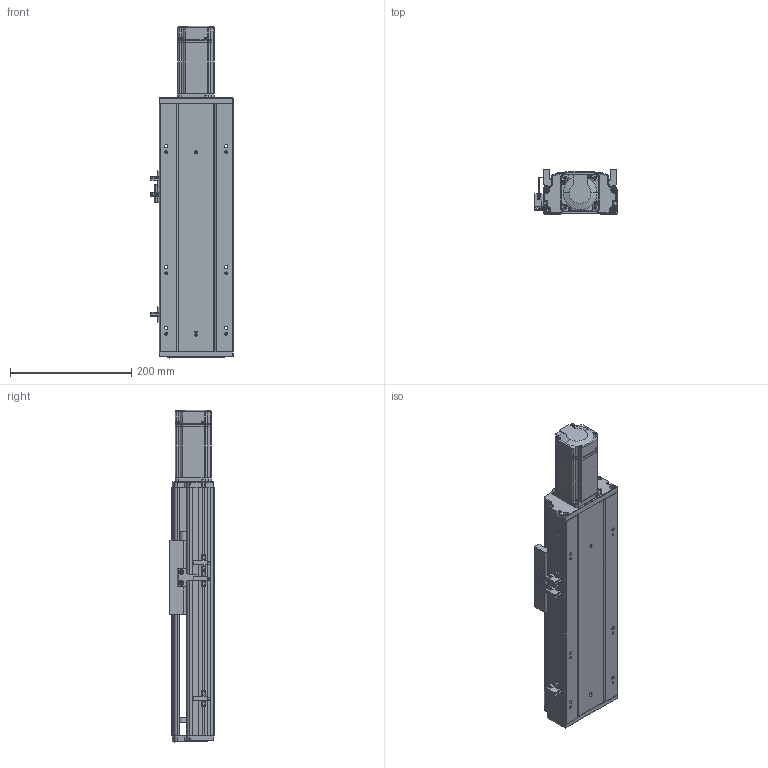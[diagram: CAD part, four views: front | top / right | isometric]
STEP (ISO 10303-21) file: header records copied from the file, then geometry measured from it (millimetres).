
FILE_DESCRIPTION (( 'STEP AP203' ), '1' );
FILE_NAME ('RY120Q-L1610-500-MK.SLDASM_0150.step', '2021-05-19T01:44:16', ( '盈信电脑' ), ( '东莞市道滘镇水果街19号' ), 'SwSTEP 2.0', 'SolidWorks 2016', '' );
FILE_SCHEMA (( 'CONFIG_CONTROL_DESIGN' ));
Length unit declared in the file: millimetre
Products named in the file (14): RY120-500-MK倰第菁釱_0150; RY120-500-MK倰第奻裔啣_0150; 滅袉蝶18-15; RY120綴裔啣; 15; 滅袉蝶18-10; 覜茼ん672; RY120外置感应片(140共用）; 侂狟400W侜督萇儂; 鞠褒坶踡蹟譫BK12 ; RY120QGB-1.8; RY120萇儂釱FK12; RY120Q-L1610-500-MK.SLDASM_0150; RY120铝滑块16丝杆（FK12）
Assembly tree (16 placements, depth 3):
  RY120Q-L1610-500-MK.SLDASM_0150
    RY120-500-MK倰第菁釱_0150
    RY120-500-MK倰第奻裔啣_0150
    侂狟400W侜督萇儂
      15
    鞠褒坶踡蹟譫BK12 
    RY120綴裔啣
    覜茼ん672  x3
    滅袉蝶18-10
    滅袉蝶18-15  x2
    RY120外置感应片(140共用）
    RY120QGB-1.8
    RY120铝滑块16丝杆（FK12）
    RY120萇儂釱FK12
Bounding box: 135.7 x 74 x 548.5 mm (x, y, z)
Volume: 1765809.3 mm3; surface area: 554202.4 mm2
Topology: 16 solids, 16 shells, 2034 faces, 5555 edges, 3558 vertices
Faces by surface type: plane 989, cylinder 745, cone 199, bspline 101
Entity records: 66047 total; most frequent: CARTESIAN_POINT 18029, ORIENTED_EDGE 9910, DIRECTION 9411, EDGE_CURVE 4955, VERTEX_POINT 3226, AXIS2_PLACEMENT_3D 3208, LINE 2995, VECTOR 2995
